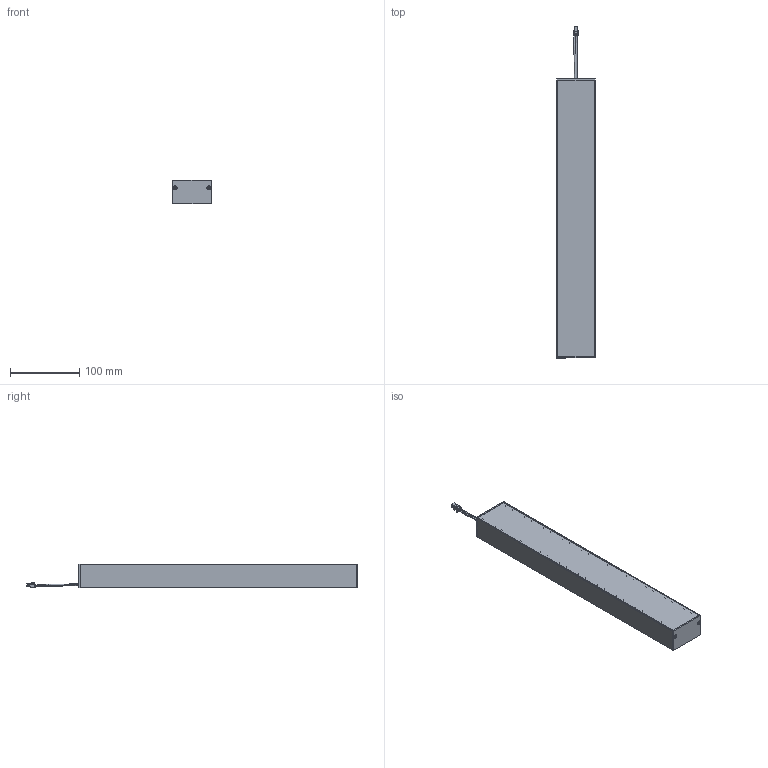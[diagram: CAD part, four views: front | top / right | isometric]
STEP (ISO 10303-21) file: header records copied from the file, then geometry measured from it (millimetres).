
FILE_DESCRIPTION (( 'STEP AP214' ), '1' );
FILE_NAME ('PotenzaCompleto_Bassa.STEP', '2022-02-18T10:34:31', ( '' ), ( '' ), 'SwSTEP 2.0', 'SolidWorks 2021', '' );
FILE_SCHEMA (( 'AUTOMOTIVE_DESIGN' ));
Length unit declared in the file: millimetre
Products named in the file (1): PotenzaCompleto_Bassa
Bounding box: 56.21 x 480.51 x 34.4 mm (x, y, z)
Surface area: 181187.1 mm2 (no closed solid volume)
Topology: 0 solids, 9 shells, 414 faces, 1110 edges, 708 vertices
Faces by surface type: plane 237, cylinder 113, cone 40, bspline 17, torus 4, sphere 3
Entity records: 21323 total; most frequent: CARTESIAN_POINT 6384, ORIENTED_EDGE 2204, DIRECTION 2076, EDGE_CURVE 1102, VECTOR 760, LINE 760, VERTEX_POINT 708, AXIS2_PLACEMENT_3D 658
